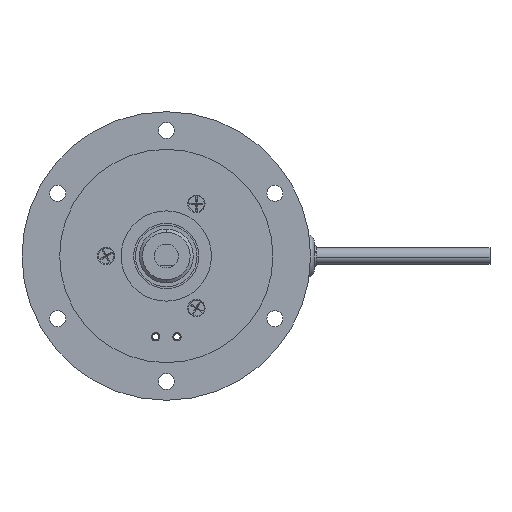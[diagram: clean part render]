
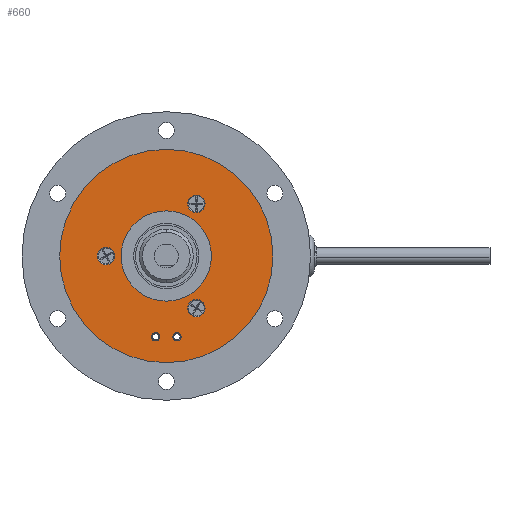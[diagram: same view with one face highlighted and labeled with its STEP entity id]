
A CAD part, left-side view. The second image highlights one B-rep face of the part: STEP entity #660.
In plain terms, the highlighted planar face has unit normal (-1, 0, 0).
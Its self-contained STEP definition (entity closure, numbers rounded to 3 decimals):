
#196 = DIRECTION ( 'NONE',  ( 0., 0.5, 0.866 ) ) ;
#260 = AXIS2_PLACEMENT_3D ( 'NONE', #3971, #1140, #10794 ) ;
#276 = EDGE_LOOP ( 'NONE', ( #12012, #1979 ) ) ;
#438 = DIRECTION ( 'NONE',  ( 1., 0., 0. ) ) ;
#660 = ADVANCED_FACE ( 'NONE', ( #14740, #3301, #9824, #9712, #12941, #16099, #6792 ), #1721, .F. ) ;
#768 = AXIS2_PLACEMENT_3D ( 'NONE', #8575, #14962, #196 ) ;
#1140 = DIRECTION ( 'NONE',  ( -1., 0., 0. ) ) ;
#1243 = DIRECTION ( 'NONE',  ( 0., -0.5, -0.866 ) ) ;
#1464 = CARTESIAN_POINT ( 'NONE',  ( -3.572, 11.688, -23.79 ) ) ;
#1616 = EDGE_CURVE ( 'NONE', #5337, #4610, #18979, .T. ) ;
#1681 = EDGE_CURVE ( 'NONE', #3125, #17583, #18994, .T. ) ;
#1721 = PLANE ( 'NONE',  #15604 ) ;
#1979 = ORIENTED_EDGE ( 'NONE', *, *, #5042, .F. ) ;
#2001 = ORIENTED_EDGE ( 'NONE', *, *, #11752, .F. ) ;
#2115 = ORIENTED_EDGE ( 'NONE', *, *, #13788, .T. ) ;
#2158 = EDGE_LOOP ( 'NONE', ( #3018, #2115 ) ) ;
#2416 = AXIS2_PLACEMENT_3D ( 'NONE', #18847, #9317, #6160 ) ;
#2565 = DIRECTION ( 'NONE',  ( 0., 0.5, 0.866 ) ) ;
#2569 = VERTEX_POINT ( 'NONE', #1464 ) ;
#2657 = CARTESIAN_POINT ( 'NONE',  ( -3.572, 13.423, 20.785 ) ) ;
#2730 = VERTEX_POINT ( 'NONE', #9972 ) ;
#2768 = AXIS2_PLACEMENT_3D ( 'NONE', #18450, #20232, #15211 ) ;
#2859 = CARTESIAN_POINT ( 'NONE',  ( -3.572, 29.665, -32.222 ) ) ;
#2866 = AXIS2_PLACEMENT_3D ( 'NONE', #2859, #20570, #6217 ) ;
#3002 = AXIS2_PLACEMENT_3D ( 'NONE', #6393, #4689, #7977 ) ;
#3008 = CARTESIAN_POINT ( 'NONE',  ( -3.572, 25.423, 0. ) ) ;
#3018 = ORIENTED_EDGE ( 'NONE', *, *, #1616, .T. ) ;
#3089 = CIRCLE ( 'NONE', #2416, 3.47 ) ;
#3125 = VERTEX_POINT ( 'NONE', #6876 ) ;
#3301 = FACE_BOUND ( 'NONE', #20603, .T. ) ;
#3638 = ORIENTED_EDGE ( 'NONE', *, *, #4611, .F. ) ;
#3653 = VERTEX_POINT ( 'NONE', #7164 ) ;
#3797 = CARTESIAN_POINT ( 'NONE',  ( -3.572, 15.158, -17.78 ) ) ;
#3971 = CARTESIAN_POINT ( 'NONE',  ( -3.572, 49.423, 0. ) ) ;
#4270 = VERTEX_POINT ( 'NONE', #13047 ) ;
#4337 = CARTESIAN_POINT ( 'NONE',  ( -3.572, 49.423, 0. ) ) ;
#4383 = AXIS2_PLACEMENT_3D ( 'NONE', #4802, #15627, #1243 ) ;
#4542 = DIRECTION ( 'NONE',  ( 1., 0., 0. ) ) ;
#4610 = VERTEX_POINT ( 'NONE', #18995 ) ;
#4611 = EDGE_CURVE ( 'NONE', #2730, #14971, #14055, .T. ) ;
#4689 = DIRECTION ( 'NONE',  ( -1., 0., 0. ) ) ;
#4802 = CARTESIAN_POINT ( 'NONE',  ( -3.572, 25.423, 0. ) ) ;
#5042 = EDGE_CURVE ( 'NONE', #14392, #3653, #14775, .T. ) ;
#5153 = ORIENTED_EDGE ( 'NONE', *, *, #15644, .F. ) ;
#5238 = DIRECTION ( 'NONE',  ( 0., -0.5, -0.866 ) ) ;
#5337 = VERTEX_POINT ( 'NONE', #18529 ) ;
#5807 = CARTESIAN_POINT ( 'NONE',  ( -3.572, 46.673, 36.806 ) ) ;
#5825 = DIRECTION ( 'NONE',  ( -1., 0., 0. ) ) ;
#6160 = DIRECTION ( 'NONE',  ( 0., 0.5, 0.866 ) ) ;
#6217 = DIRECTION ( 'NONE',  ( 0., 0.5, 0.866 ) ) ;
#6393 = CARTESIAN_POINT ( 'NONE',  ( -3.572, 13.423, -20.785 ) ) ;
#6478 = DIRECTION ( 'NONE',  ( 0., -0.5, -0.866 ) ) ;
#6482 = EDGE_LOOP ( 'NONE', ( #15785, #15713 ) ) ;
#6491 = VERTEX_POINT ( 'NONE', #14322 ) ;
#6792 = FACE_BOUND ( 'NONE', #2158, .T. ) ;
#6876 = CARTESIAN_POINT ( 'NONE',  ( -3.572, 51.158, 3.005 ) ) ;
#6923 = CARTESIAN_POINT ( 'NONE',  ( -3.572, 28.84, -33.651 ) ) ;
#7164 = CARTESIAN_POINT ( 'NONE',  ( -3.572, 4.173, -36.806 ) ) ;
#7916 = CIRCLE ( 'NONE', #15260, 3.47 ) ;
#7918 = CIRCLE ( 'NONE', #2866, 1.65 ) ;
#7977 = DIRECTION ( 'NONE',  ( 0., 0.5, 0.866 ) ) ;
#7982 = EDGE_CURVE ( 'NONE', #8932, #2569, #12054, .T. ) ;
#8001 = DIRECTION ( 'NONE',  ( 0., 0.5, 0.866 ) ) ;
#8122 = DIRECTION ( 'NONE',  ( 0., 0.5, 0.866 ) ) ;
#8153 = CARTESIAN_POINT ( 'NONE',  ( -3.572, 62.229, -21.25 ) ) ;
#8575 = CARTESIAN_POINT ( 'NONE',  ( -3.572, 29.665, -32.222 ) ) ;
#8932 = VERTEX_POINT ( 'NONE', #3797 ) ;
#9075 = DIRECTION ( 'NONE',  ( 0., 0.5, 0.866 ) ) ;
#9120 = CIRCLE ( 'NONE', #11787, 3.47 ) ;
#9152 = CIRCLE ( 'NONE', #2768, 1.65 ) ;
#9215 = AXIS2_PLACEMENT_3D ( 'NONE', #3008, #9837, #6478 ) ;
#9317 = DIRECTION ( 'NONE',  ( -1., 0., 0. ) ) ;
#9394 = DIRECTION ( 'NONE',  ( 0., -0.5, -0.866 ) ) ;
#9566 = DIRECTION ( 'NONE',  ( -1., 0., 0. ) ) ;
#9712 = FACE_BOUND ( 'NONE', #14393, .T. ) ;
#9824 = FACE_BOUND ( 'NONE', #6482, .T. ) ;
#9837 = DIRECTION ( 'NONE',  ( 1., 0., 0. ) ) ;
#9948 = AXIS2_PLACEMENT_3D ( 'NONE', #16363, #438, #5238 ) ;
#9972 = CARTESIAN_POINT ( 'NONE',  ( -3.572, 22.006, -30.793 ) ) ;
#10794 = DIRECTION ( 'NONE',  ( 0., 0.5, 0.866 ) ) ;
#11507 = ORIENTED_EDGE ( 'NONE', *, *, #14613, .F. ) ;
#11590 = EDGE_CURVE ( 'NONE', #2569, #8932, #3089, .T. ) ;
#11752 = EDGE_CURVE ( 'NONE', #14865, #16590, #15488, .T. ) ;
#11787 = AXIS2_PLACEMENT_3D ( 'NONE', #2657, #5825, #9075 ) ;
#12012 = ORIENTED_EDGE ( 'NONE', *, *, #19715, .F. ) ;
#12054 = CIRCLE ( 'NONE', #3002, 3.47 ) ;
#12822 = CIRCLE ( 'NONE', #19195, 42.5 ) ;
#12941 = FACE_BOUND ( 'NONE', #13981, .T. ) ;
#13047 = CARTESIAN_POINT ( 'NONE',  ( -3.572, 15.158, 23.79 ) ) ;
#13083 = EDGE_CURVE ( 'NONE', #17583, #3125, #13513, .T. ) ;
#13513 = CIRCLE ( 'NONE', #15537, 3.47 ) ;
#13788 = EDGE_CURVE ( 'NONE', #4610, #5337, #20577, .T. ) ;
#13867 = ORIENTED_EDGE ( 'NONE', *, *, #19373, .F. ) ;
#13981 = EDGE_LOOP ( 'NONE', ( #17920, #18199 ) ) ;
#14055 = CIRCLE ( 'NONE', #15742, 1.65 ) ;
#14322 = CARTESIAN_POINT ( 'NONE',  ( -3.572, 11.688, 17.78 ) ) ;
#14392 = VERTEX_POINT ( 'NONE', #5807 ) ;
#14393 = EDGE_LOOP ( 'NONE', ( #5153, #17743 ) ) ;
#14526 = DIRECTION ( 'NONE',  ( 1., 0., 0. ) ) ;
#14613 = EDGE_CURVE ( 'NONE', #16590, #14865, #7918, .T. ) ;
#14740 = FACE_BOUND ( 'NONE', #16738, .T. ) ;
#14775 = CIRCLE ( 'NONE', #4383, 42.5 ) ;
#14865 = VERTEX_POINT ( 'NONE', #16676 ) ;
#14962 = DIRECTION ( 'NONE',  ( -1., 0., 0. ) ) ;
#14971 = VERTEX_POINT ( 'NONE', #15635 ) ;
#15211 = DIRECTION ( 'NONE',  ( 0., 0.5, 0.866 ) ) ;
#15260 = AXIS2_PLACEMENT_3D ( 'NONE', #16071, #19012, #8122 ) ;
#15470 = CARTESIAN_POINT ( 'NONE',  ( -3.572, 25.423, 0. ) ) ;
#15488 = CIRCLE ( 'NONE', #768, 1.65 ) ;
#15537 = AXIS2_PLACEMENT_3D ( 'NONE', #4337, #19977, #2565 ) ;
#15604 = AXIS2_PLACEMENT_3D ( 'NONE', #8153, #14526, #19346 ) ;
#15627 = DIRECTION ( 'NONE',  ( 1., 0., 0. ) ) ;
#15635 = CARTESIAN_POINT ( 'NONE',  ( -3.572, 20.356, -33.651 ) ) ;
#15644 = EDGE_CURVE ( 'NONE', #4270, #6491, #7916, .T. ) ;
#15713 = ORIENTED_EDGE ( 'NONE', *, *, #13083, .F. ) ;
#15742 = AXIS2_PLACEMENT_3D ( 'NONE', #15851, #9566, #8001 ) ;
#15785 = ORIENTED_EDGE ( 'NONE', *, *, #1681, .F. ) ;
#15851 = CARTESIAN_POINT ( 'NONE',  ( -3.572, 21.181, -32.222 ) ) ;
#16071 = CARTESIAN_POINT ( 'NONE',  ( -3.572, 13.423, 20.785 ) ) ;
#16099 = FACE_OUTER_BOUND ( 'NONE', #276, .T. ) ;
#16363 = CARTESIAN_POINT ( 'NONE',  ( -3.572, 25.423, 0. ) ) ;
#16590 = VERTEX_POINT ( 'NONE', #6923 ) ;
#16676 = CARTESIAN_POINT ( 'NONE',  ( -3.572, 30.49, -30.793 ) ) ;
#16738 = EDGE_LOOP ( 'NONE', ( #2001, #11507 ) ) ;
#16792 = CARTESIAN_POINT ( 'NONE',  ( -3.572, 47.688, -3.005 ) ) ;
#17583 = VERTEX_POINT ( 'NONE', #16792 ) ;
#17743 = ORIENTED_EDGE ( 'NONE', *, *, #18545, .F. ) ;
#17920 = ORIENTED_EDGE ( 'NONE', *, *, #7982, .F. ) ;
#18199 = ORIENTED_EDGE ( 'NONE', *, *, #11590, .F. ) ;
#18450 = CARTESIAN_POINT ( 'NONE',  ( -3.572, 21.181, -32.222 ) ) ;
#18529 = CARTESIAN_POINT ( 'NONE',  ( -3.572, 16.423, -15.588 ) ) ;
#18545 = EDGE_CURVE ( 'NONE', #6491, #4270, #9120, .T. ) ;
#18847 = CARTESIAN_POINT ( 'NONE',  ( -3.572, 13.423, -20.785 ) ) ;
#18979 = CIRCLE ( 'NONE', #9948, 18. ) ;
#18994 = CIRCLE ( 'NONE', #260, 3.47 ) ;
#18995 = CARTESIAN_POINT ( 'NONE',  ( -3.572, 34.423, 15.588 ) ) ;
#19012 = DIRECTION ( 'NONE',  ( -1., 0., 0. ) ) ;
#19195 = AXIS2_PLACEMENT_3D ( 'NONE', #15470, #4542, #9394 ) ;
#19346 = DIRECTION ( 'NONE',  ( 0., -0.5, -0.866 ) ) ;
#19373 = EDGE_CURVE ( 'NONE', #14971, #2730, #9152, .T. ) ;
#19715 = EDGE_CURVE ( 'NONE', #3653, #14392, #12822, .T. ) ;
#19977 = DIRECTION ( 'NONE',  ( -1., 0., 0. ) ) ;
#20232 = DIRECTION ( 'NONE',  ( -1., 0., 0. ) ) ;
#20570 = DIRECTION ( 'NONE',  ( -1., 0., 0. ) ) ;
#20577 = CIRCLE ( 'NONE', #9215, 18. ) ;
#20603 = EDGE_LOOP ( 'NONE', ( #3638, #13867 ) ) ;
